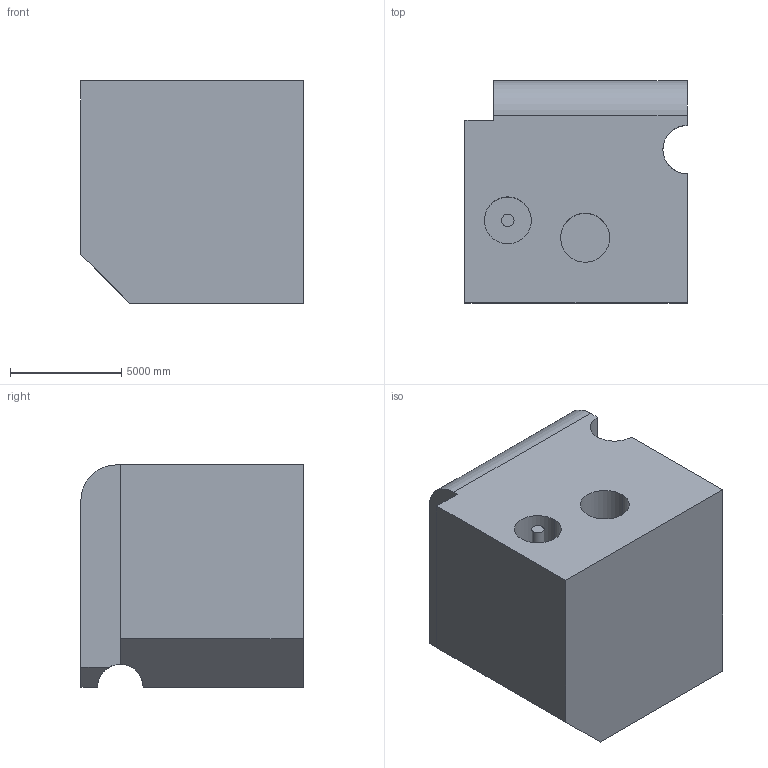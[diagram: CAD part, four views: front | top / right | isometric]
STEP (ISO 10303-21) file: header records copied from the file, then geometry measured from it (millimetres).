
FILE_DESCRIPTION (( 'STEP AP203' ), '1' );
FILE_NAME ('1817.STEP', '2022-08-26T14:46:07', ( 'user' ), ( '' ), 'SwSTEP 2.0', 'SolidWorks 2021', '' );
FILE_SCHEMA (( 'CONFIG_CONTROL_DESIGN' ));
Length unit declared in the file: centimetre
Products named in the file (1): 1817
Bounding box: 10000 x 10000 x 10000 mm (x, y, z)
Volume: 878082526245.9 mm3; surface area: 677357228.4 mm2
Topology: 1 solids, 1 shells, 36 faces, 93 edges, 62 vertices
Faces by surface type: plane 23, cylinder 13
Entity records: 1513 total; most frequent: CARTESIAN_POINT 551, ORIENTED_EDGE 186, DIRECTION 180, EDGE_CURVE 93, LINE 62, VERTEX_POINT 62, VECTOR 62, AXIS2_PLACEMENT_3D 59
